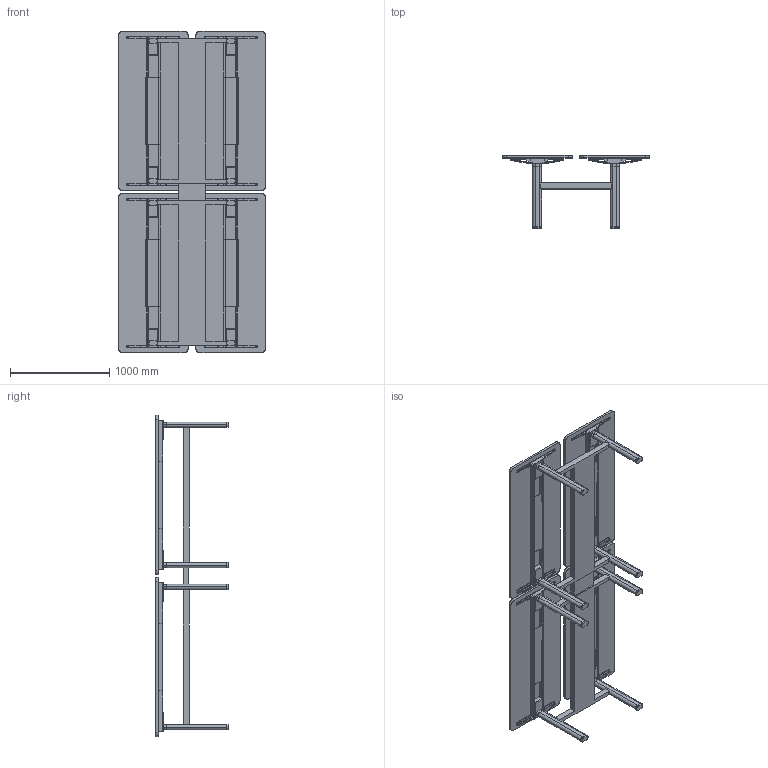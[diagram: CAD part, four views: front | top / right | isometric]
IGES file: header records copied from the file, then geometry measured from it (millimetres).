
Start section: SolidWorks IGES file using analytic representation for surfaces
Global section: file name: C:\Users\simone.cerana\OneDrive - Gruppo Tecno\Desktop\CHINA\DISEGNI DI SERIE\ASSIEMI LISTINO\AXIS LISTINO\AX3214ST.IGS; native system: SolidWorks 2024; preprocessor: SolidWorks 2024; author: simone.cerana; date: 260508.092042; units: millimetre
Bounding box: 1480 x 729.39 x 3230 mm (x, y, z)
Surface area: 15817681.1 mm2 (no closed solid volume)
Topology: 0 solids, 0 shells, 1086 faces, 12728 edges, 12712 vertices
Faces by surface type: revolution 544, bspline 542
